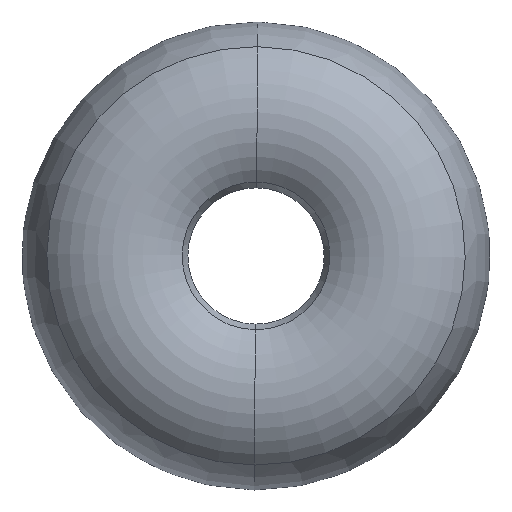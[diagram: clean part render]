
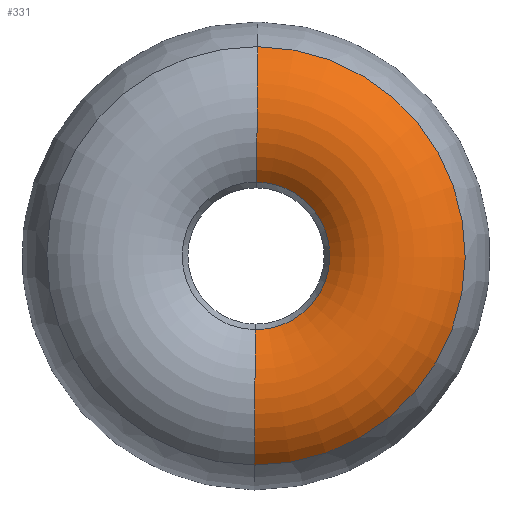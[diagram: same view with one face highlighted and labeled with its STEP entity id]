
A CAD part, top view. The second image highlights one B-rep face of the part: STEP entity #331.
In plain terms, the highlighted toroidal (fillet/blend) face has major radius 1858.79 mm and minor radius 1279.57 mm.
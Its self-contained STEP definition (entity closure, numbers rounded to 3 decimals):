
#7 = DIRECTION ( 'NONE',  ( 0.008, 1., 0. ) ) ;
#22 = EDGE_CURVE ( 'NONE', #73, #266, #37, .T. ) ;
#28 = CARTESIAN_POINT ( 'NONE',  ( -23.156, -2839.006, 1829. ) ) ;
#37 = CIRCLE ( 'NONE', #533, 1279.566 ) ;
#52 = CARTESIAN_POINT ( 'NONE',  ( -8.172, -1001.967, 1957. ) ) ;
#73 = VERTEX_POINT ( 'NONE', #52 ) ;
#101 = DIRECTION ( 'NONE',  ( -0.008, -1., 0. ) ) ;
#113 = VERTEX_POINT ( 'NONE', #525 ) ;
#135 = EDGE_CURVE ( 'NONE', #342, #266, #268, .T. ) ;
#160 = DIRECTION ( 'NONE',  ( 0.008, 1., 0. ) ) ;
#173 = TOROIDAL_SURFACE ( 'NONE', #336, 1858.792, 1279.566 ) ;
#200 = EDGE_CURVE ( 'NONE', #113, #342, #523, .T. ) ;
#204 = AXIS2_PLACEMENT_3D ( 'NONE', #339, #262, #390 ) ;
#205 = CARTESIAN_POINT ( 'NONE',  ( 23.156, 2839.006, 1829. ) ) ;
#208 = DIRECTION ( 'NONE',  ( 0., 0., -1. ) ) ;
#227 = DIRECTION ( 'NONE',  ( 0.008, 1., 0. ) ) ;
#241 = FACE_OUTER_BOUND ( 'NONE', #263, .T. ) ;
#242 = DIRECTION ( 'NONE',  ( -1., 0.008, 0. ) ) ;
#262 = DIRECTION ( 'NONE',  ( 0., 0., -1. ) ) ;
#263 = EDGE_LOOP ( 'NONE', ( #513, #352, #460, #316 ) ) ;
#266 = VERTEX_POINT ( 'NONE', #28 ) ;
#268 = CIRCLE ( 'NONE', #516, 2839.1 ) ;
#292 = DIRECTION ( 'NONE',  ( 1., -0.008, 0. ) ) ;
#307 = CARTESIAN_POINT ( 'NONE',  ( 0., 0., 1829. ) ) ;
#316 = ORIENTED_EDGE ( 'NONE', *, *, #200, .F. ) ;
#331 = ADVANCED_FACE ( 'NONE', ( #241 ), #173, .T. ) ;
#336 = AXIS2_PLACEMENT_3D ( 'NONE', #416, #208, #160 ) ;
#339 = CARTESIAN_POINT ( 'NONE',  ( 0., 0., 1957. ) ) ;
#342 = VERTEX_POINT ( 'NONE', #205 ) ;
#349 = DIRECTION ( 'NONE',  ( 0., 0., -1. ) ) ;
#352 = ORIENTED_EDGE ( 'NONE', *, *, #22, .T. ) ;
#390 = DIRECTION ( 'NONE',  ( 0.008, 1., 0. ) ) ;
#416 = CARTESIAN_POINT ( 'NONE',  ( 0., 0., 1006.635 ) ) ;
#437 = CIRCLE ( 'NONE', #204, 1002. ) ;
#460 = ORIENTED_EDGE ( 'NONE', *, *, #135, .F. ) ;
#478 = EDGE_CURVE ( 'NONE', #113, #73, #437, .T. ) ;
#492 = CARTESIAN_POINT ( 'NONE',  ( 15.16, 1858.731, 1006.635 ) ) ;
#499 = AXIS2_PLACEMENT_3D ( 'NONE', #492, #242, #101 ) ;
#513 = ORIENTED_EDGE ( 'NONE', *, *, #478, .T. ) ;
#516 = AXIS2_PLACEMENT_3D ( 'NONE', #307, #349, #7 ) ;
#523 = CIRCLE ( 'NONE', #499, 1279.566 ) ;
#525 = CARTESIAN_POINT ( 'NONE',  ( 8.172, 1001.967, 1957. ) ) ;
#533 = AXIS2_PLACEMENT_3D ( 'NONE', #556, #292, #227 ) ;
#556 = CARTESIAN_POINT ( 'NONE',  ( -15.16, -1858.731, 1006.635 ) ) ;
